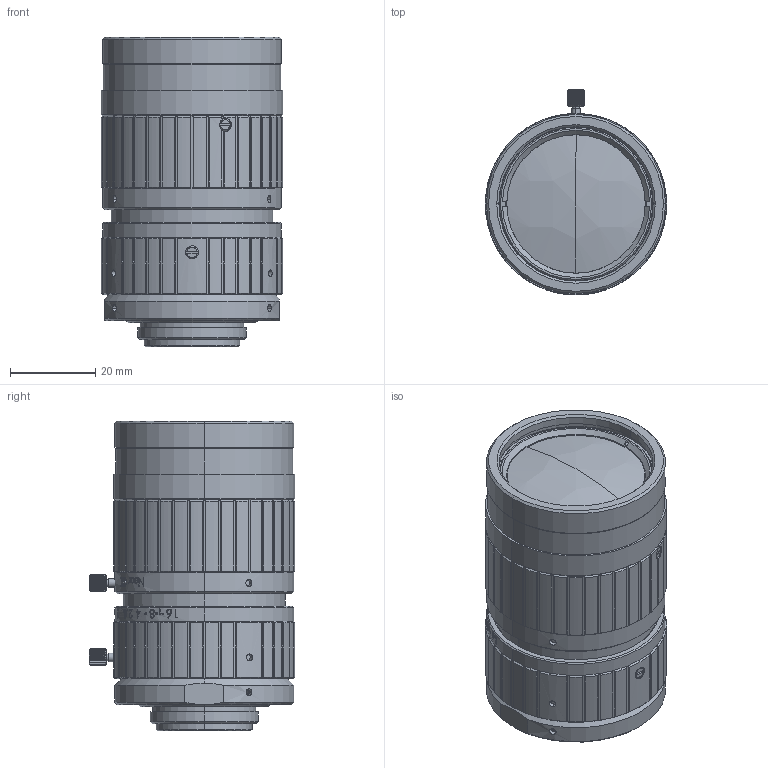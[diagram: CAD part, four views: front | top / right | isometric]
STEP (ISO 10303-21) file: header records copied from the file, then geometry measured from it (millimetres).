
FILE_DESCRIPTION (( 'STEP AP203' ), '1' );
FILE_NAME ('3d_C-ML-U2515SR-18C_a001.STEP', '2023-10-18T07:43:59', ( '' ), ( '' ), 'SwSTEP 2.0', 'SolidWorks 2020', '' );
FILE_SCHEMA (( 'CONFIG_CONTROL_DESIGN' ));
Products named in the file (1): 3d_C-ML-U2515SR-18C_a001
Bounding box: 42.5 x 48.25 x 72.71 mm (x, y, z)
Volume: 91079.1 mm3; surface area: 15667.7 mm2
Topology: 1 solids, 3 shells, 1195 faces, 3230 edges, 2120 vertices
Faces by surface type: plane 493, cylinder 386, bspline 219, cone 97
Entity records: 63516 total; most frequent: CARTESIAN_POINT 36238, ORIENTED_EDGE 6460, DIRECTION 4401, EDGE_CURVE 3230, VERTEX_POINT 2120, AXIS2_PLACEMENT_3D 1587, B_SPLINE_CURVE_WITH_KNOTS 1389, EDGE_LOOP 1278
